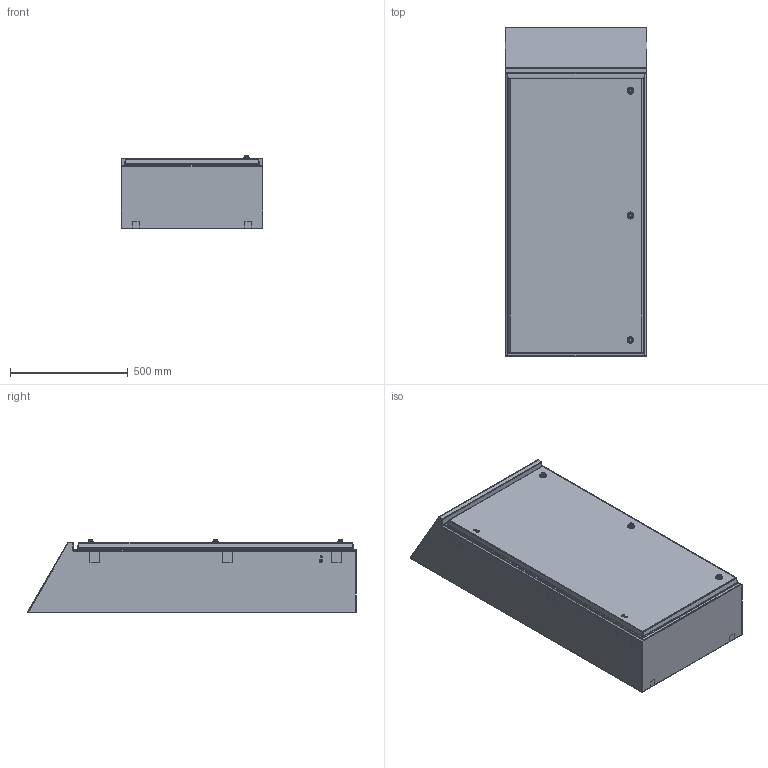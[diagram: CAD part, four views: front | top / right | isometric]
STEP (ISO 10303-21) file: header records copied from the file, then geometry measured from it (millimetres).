
FILE_DESCRIPTION (( 'STEP AP203' ), '1' );
FILE_NAME ('SITO-QSH612.STEP', '2021-05-06T07:55:18', ( '' ), ( '' ), 'SwSTEP 2.0', 'SolidWorks 2020', '' );
FILE_SCHEMA (( 'CONFIG_CONTROL_DESIGN' ));
Length unit declared in the file: millimetre
Products named in the file (20): CEPOM(CORPO); DM06I; DMFD08Z; SVPIQSH612A; SG460-SD senza scarpetta_Configurazione 1; SG460-32-HD_Posizione 4; CERNIERA; PIQSH612A; SITO-ASSIEME PORTA QSH612; SITO-QSH612; SITO-PORTA QSH612; SG460-32-HD_Posizione 3; 1000-S1491; PRM615TL316; GHIERA SG CASSETTE; ADMT_ADMT; Scarpetta H.32 SG460-SD_Configurazione 2; RP0612I; SITO-FASCIAME QSH612_QSH45
Assembly tree (39 placements, depth 4):
  SITO-QSH612
    SITO-FASCIAME QSH612_QSH45
    PIQSH612A
      SVPIQSH612A
    SITO-ASSIEME PORTA QSH612
      SITO-PORTA QSH612
      SG460-32-HD_Posizione 4
        1000-S1491
        GHIERA SG CASSETTE
        Scarpetta H.32 SG460-SD_Configurazione 2
        CEPOM(CORPO)
        SG460-SD senza scarpetta_Configurazione 1
      SG460-32-HD_Posizione 3
        1000-S1491
        GHIERA SG CASSETTE
        Scarpetta H.32 SG460-SD_Configurazione 2
        CEPOM(CORPO)
      PRM615TL316  x2
      ADMT_ADMT  x2
      RP0612I  x2
      DM06I  x2
      SG460-32-HD_Posizione 4
        1000-S1491
        GHIERA SG CASSETTE
        Scarpetta H.32 SG460-SD_Configurazione 2
        CEPOM(CORPO)
        SG460-SD senza scarpetta_Configurazione 1
    DMFD08Z  x4
    ADMT_ADMT  x2
    CERNIERA  x3
Bounding box: 600 x 1394.81 x 313.12 mm (x, y, z)
Volume: 6497863.7 mm3; surface area: 7316508.7 mm2
Topology: 47 solids, 47 shells, 2196 faces, 5425 edges, 3377 vertices
Faces by surface type: plane 1122, cylinder 710, bspline 164, cone 154, sphere 28, torus 18
Entity records: 38277 total; most frequent: CARTESIAN_POINT 9656, DIRECTION 5476, ORIENTED_EDGE 5410, EDGE_CURVE 2705, AXIS2_PLACEMENT_3D 1934, VERTEX_POINT 1683, VECTOR 1608, LINE 1608
